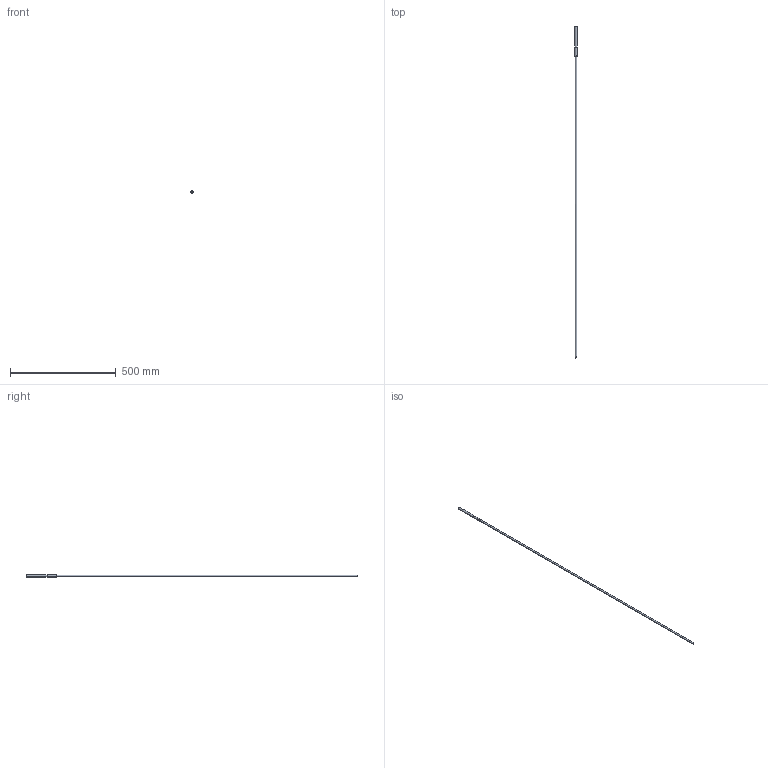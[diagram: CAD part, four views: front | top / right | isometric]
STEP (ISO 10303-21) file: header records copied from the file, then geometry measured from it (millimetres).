
FILE_DESCRIPTION((''),'2;1');
FILE_NAME('PRT0023','2025-05-27T10:14:09',('elena.baldelli'),(''),'CREO PARAMETRIC BY PTC INC, 2020354','CREO PARAMETRIC BY PTC INC, 2020354','');
FILE_SCHEMA(('CONFIG_CONTROL_DESIGN'));
Length unit declared in the file: millimetre
Products named in the file (1): PRT0023
Bounding box: 10 x 1573.5 x 10 mm (x, y, z)
Surface area: 41456.9 mm2 (no closed solid volume)
Topology: 0 solids, 4 shells, 12 faces, 32 edges, 22 vertices
Faces by surface type: cylinder 8, plane 2, cone 2
Entity records: 460 total; most frequent: CARTESIAN_POINT 112, DIRECTION 72, ORIENTED_EDGE 52, EDGE_CURVE 32, AXIS2_PLACEMENT_3D 30, VERTEX_POINT 22, CIRCLE 18, VECTOR 12
